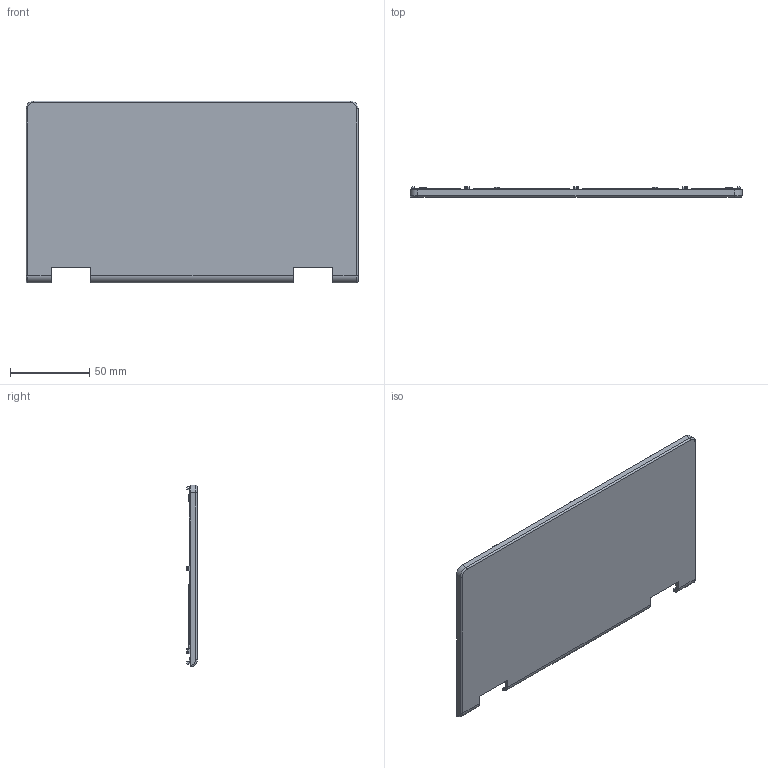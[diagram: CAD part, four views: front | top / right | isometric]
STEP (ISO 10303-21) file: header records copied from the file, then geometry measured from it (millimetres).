
FILE_DESCRIPTION (( 'STEP AP203' ), '1' );
FILE_NAME ('そ躉褲1.1.STEP', '2023-12-14T16:11:44', ( 'shan123' ), ( 'Razer' ), 'SwSTEP 2.0', 'SolidWorks 2018', '' );
FILE_SCHEMA (( 'CONFIG_CONTROL_DESIGN' ));
Length unit declared in the file: millimetre
Products named in the file (1): そ躉褲1.1
Bounding box: 209.6 x 6.5 x 114.9 mm (x, y, z)
Volume: 41601.3 mm3; surface area: 57214.6 mm2
Topology: 2 solids, 2 shells, 367 faces, 1012 edges, 668 vertices
Faces by surface type: plane 295, cylinder 68, torus 4
Entity records: 11649 total; most frequent: CARTESIAN_POINT 2048, ORIENTED_EDGE 2024, DIRECTION 1916, EDGE_CURVE 1012, LINE 844, VECTOR 844, VERTEX_POINT 668, AXIS2_PLACEMENT_3D 536
